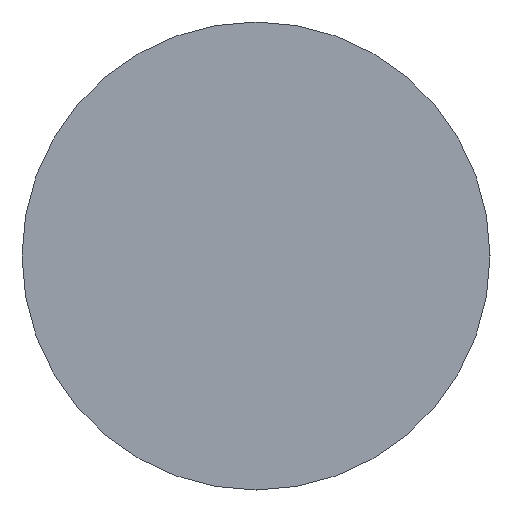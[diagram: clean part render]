
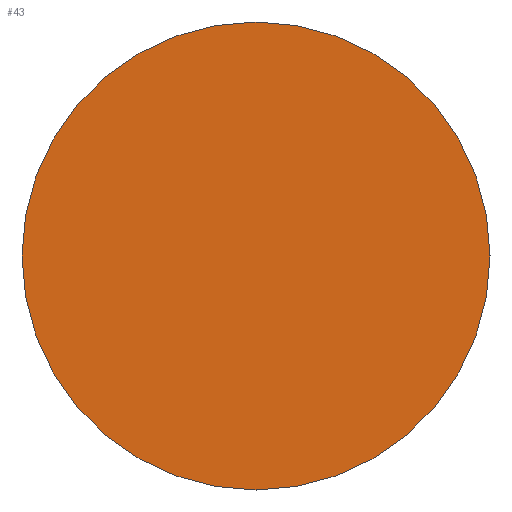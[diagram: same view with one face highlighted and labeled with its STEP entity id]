
A CAD part, front view. The second image highlights one B-rep face of the part: STEP entity #43.
In plain terms, the highlighted planar face has unit normal (0, -1, 0).
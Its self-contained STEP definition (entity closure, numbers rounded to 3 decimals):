
#18 = CARTESIAN_POINT ( 'NONE',  ( 0., -2., -2.5 ) ) ;
#26 = PLANE ( 'NONE',  #99 ) ;
#30 = CARTESIAN_POINT ( 'NONE',  ( 0., -2., 2.5 ) ) ;
#43 = ADVANCED_FACE ( 'NONE', ( #310 ), #26, .T. ) ;
#52 = DIRECTION ( 'NONE',  ( 0., 0., 1. ) ) ;
#70 = CARTESIAN_POINT ( 'NONE',  ( 0., -2., 0. ) ) ;
#91 = CIRCLE ( 'NONE', #326, 2.5 ) ;
#99 = AXIS2_PLACEMENT_3D ( 'NONE', #343, #318, #114 ) ;
#114 = DIRECTION ( 'NONE',  ( 0., 0., -1. ) ) ;
#135 = CIRCLE ( 'NONE', #238, 2.5 ) ;
#197 = EDGE_CURVE ( 'NONE', #330, #216, #91, .T. ) ;
#216 = VERTEX_POINT ( 'NONE', #30 ) ;
#238 = AXIS2_PLACEMENT_3D ( 'NONE', #70, #311, #280 ) ;
#239 = ORIENTED_EDGE ( 'NONE', *, *, #307, .F. ) ;
#250 = EDGE_LOOP ( 'NONE', ( #239, #268 ) ) ;
#268 = ORIENTED_EDGE ( 'NONE', *, *, #197, .F. ) ;
#280 = DIRECTION ( 'NONE',  ( 0., 0., 1. ) ) ;
#292 = DIRECTION ( 'NONE',  ( 0., 1., 0. ) ) ;
#307 = EDGE_CURVE ( 'NONE', #216, #330, #135, .T. ) ;
#310 = FACE_OUTER_BOUND ( 'NONE', #250, .T. ) ;
#311 = DIRECTION ( 'NONE',  ( 0., 1., 0. ) ) ;
#318 = DIRECTION ( 'NONE',  ( 0., -1., 0. ) ) ;
#319 = CARTESIAN_POINT ( 'NONE',  ( 0., -2., 0. ) ) ;
#326 = AXIS2_PLACEMENT_3D ( 'NONE', #319, #292, #52 ) ;
#330 = VERTEX_POINT ( 'NONE', #18 ) ;
#343 = CARTESIAN_POINT ( 'NONE',  ( -2.5, -2., 0. ) ) ;
